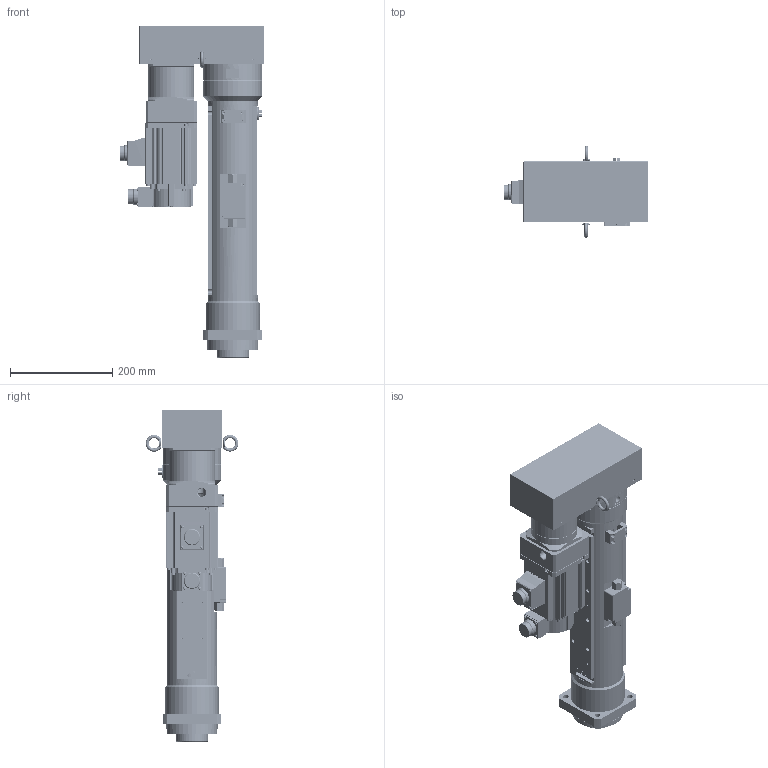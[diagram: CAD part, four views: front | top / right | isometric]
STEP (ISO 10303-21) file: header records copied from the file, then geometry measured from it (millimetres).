
FILE_DESCRIPTION( ('This file contains a STEP AP42 implementation' ,'as created by ZW3D STEP Interface translator.') ,'2;1' );
FILE_NAME( 'OACIS-DC-P010-300-200-A6V200_ASM_20.51.stp' ,'26 415.142442', (''), ('ZWCAD Software Co.'), 'Version 1.0', 'ZW3D to STEP translator', '' );
FILE_SCHEMA(('AUTOMOTIVE_DESIGN { 1 0 10303 214 1 1 1 1 }'));
Length unit declared in the file: millimetre
Products named in the file (1): 0
Bounding box: 283 x 180.9 x 648 mm (x, y, z)
Volume: 5689114.8 mm3; surface area: 1345796.4 mm2
Topology: 48 solids, 63 shells, 3086 faces, 7923 edges, 5144 vertices
Faces by surface type: cylinder 1469, plane 1145, cone 346, torus 95, sphere 21, bspline 10
Full cylindrical faces by diameter (mm): 1.6 x8, 2.459 x5, 2.75 x4, 3.2 x5, 3.242 x10, 3.3 x114, 4 x8, 4.134 x12, 4.2 x4, 4.3 x30, 4.5 x4, 5 x42, 5.6 x5, 6.5 x4, 6.6 x14, 6.647 x5, 6.8 x36, 7 x20, 8 x46, 8.4 x8, 8.5 x25, 9 x4, 11 x12, 12 x1, 15 x8, 15.5 x2, 16.5 x2, 18 x5, 18.917 x2, 19 x2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
Entity records: 101417 total; most frequent: CARTESIAN_POINT 19979, DIRECTION 17640, ORIENTED_EDGE 15557, EDGE_CURVE 7805, AXIS2_PLACEMENT_3D 7018, VERTEX_POINT 5083, CIRCLE 3936, EDGE_LOOP 3690
